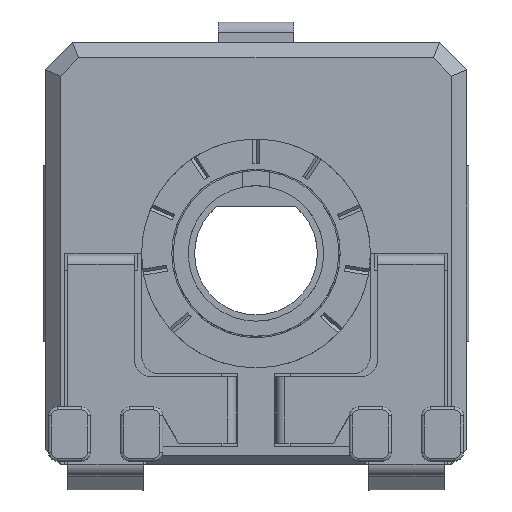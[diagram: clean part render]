
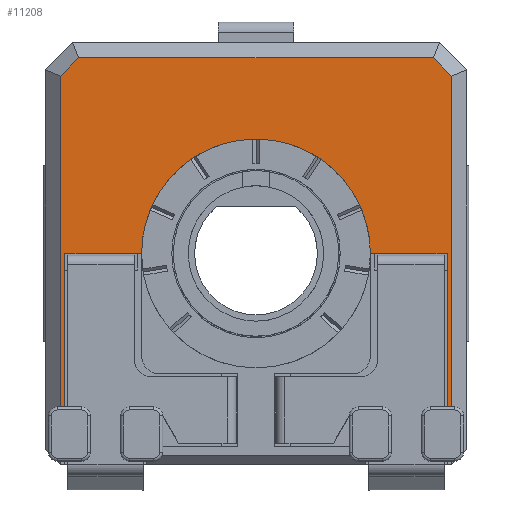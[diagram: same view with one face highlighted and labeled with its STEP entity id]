
A CAD part, top view. The second image highlights one B-rep face of the part: STEP entity #11208.
In plain terms, the highlighted planar face has unit normal (0, 0, 1).
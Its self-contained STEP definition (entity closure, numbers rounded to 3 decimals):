
#485=PLANE('',#12015);
#1024=FACE_OUTER_BOUND('',#1599,.T.);
#1599=EDGE_LOOP('',(#9771,#9772,#9773,#9774,#9775,#9776,#9777,#9778,#9779,
#9780,#9781,#9782));
#2040=LINE('',#16032,#3311);
#2108=LINE('',#16285,#3379);
#2348=LINE('',#17024,#3619);
#2351=LINE('',#17029,#3622);
#2576=LINE('',#17589,#3847);
#2609=LINE('',#17716,#3880);
#2832=LINE('',#18263,#4103);
#2833=LINE('',#18266,#4104);
#2834=LINE('',#18267,#4105);
#2835=LINE('',#18270,#4106);
#2836=LINE('',#18271,#4107);
#3311=VECTOR('',#12904,10.);
#3379=VECTOR('',#13186,10.);
#3619=VECTOR('',#13708,10.);
#3622=VECTOR('',#13713,10.);
#3847=VECTOR('',#14086,10.);
#3880=VECTOR('',#14161,10.);
#4103=VECTOR('',#14678,10.);
#4104=VECTOR('',#14681,10.);
#4105=VECTOR('',#14682,10.);
#4106=VECTOR('',#14685,10.);
#4107=VECTOR('',#14686,10.);
#4476=CIRCLE('',#12016,3.8);
#4777=VERTEX_POINT('',#15840);
#4832=VERTEX_POINT('',#16031);
#4909=VERTEX_POINT('',#16282);
#4910=VERTEX_POINT('',#16284);
#4957=VERTEX_POINT('',#16438);
#4958=VERTEX_POINT('',#16440);
#5111=VERTEX_POINT('',#17020);
#5112=VERTEX_POINT('',#17022);
#5277=VERTEX_POINT('',#17585);
#5303=VERTEX_POINT('',#17715);
#5434=VERTEX_POINT('',#18265);
#5435=VERTEX_POINT('',#18269);
#5968=EDGE_CURVE('',#4832,#4777,#2040,.T.);
#6094=EDGE_CURVE('',#4910,#4909,#2108,.T.);
#6398=EDGE_CURVE('',#5112,#5111,#2348,.T.);
#6401=EDGE_CURVE('',#5111,#4909,#2351,.T.);
#6647=EDGE_CURVE('',#4832,#5277,#2576,.T.);
#6692=EDGE_CURVE('',#5277,#5303,#2609,.T.);
#6942=EDGE_CURVE('',#5303,#5112,#2832,.T.);
#6943=EDGE_CURVE('',#4777,#5434,#2833,.T.);
#6944=EDGE_CURVE('',#5434,#4958,#2834,.T.);
#6945=EDGE_CURVE('',#4958,#4957,#4476,.T.);
#6946=EDGE_CURVE('',#4957,#5435,#2835,.T.);
#6947=EDGE_CURVE('',#5435,#4910,#2836,.T.);
#9771=ORIENTED_EDGE('',*,*,#5968,.T.);
#9772=ORIENTED_EDGE('',*,*,#6943,.T.);
#9773=ORIENTED_EDGE('',*,*,#6944,.T.);
#9774=ORIENTED_EDGE('',*,*,#6945,.T.);
#9775=ORIENTED_EDGE('',*,*,#6946,.T.);
#9776=ORIENTED_EDGE('',*,*,#6947,.T.);
#9777=ORIENTED_EDGE('',*,*,#6094,.T.);
#9778=ORIENTED_EDGE('',*,*,#6401,.F.);
#9779=ORIENTED_EDGE('',*,*,#6398,.F.);
#9780=ORIENTED_EDGE('',*,*,#6942,.F.);
#9781=ORIENTED_EDGE('',*,*,#6692,.F.);
#9782=ORIENTED_EDGE('',*,*,#6647,.F.);
#11208=ADVANCED_FACE('',(#1024),#485,.T.);
#12015=AXIS2_PLACEMENT_3D('',#18264,#14679,#14680);
#12016=AXIS2_PLACEMENT_3D('',#18268,#14683,#14684);
#12904=DIRECTION('',(1.,0.,0.));
#13186=DIRECTION('',(1.,0.,0.));
#13708=DIRECTION('',(0.707,-0.707,0.));
#13713=DIRECTION('',(0.,-1.,0.));
#14086=DIRECTION('',(0.,1.,0.));
#14161=DIRECTION('',(0.707,0.707,0.));
#14678=DIRECTION('',(1.,0.,0.));
#14679=DIRECTION('center_axis',(0.,0.,1.));
#14680=DIRECTION('ref_axis',(1.,0.,0.));
#14681=DIRECTION('',(0.,1.,0.));
#14682=DIRECTION('',(1.,0.,0.));
#14683=DIRECTION('center_axis',(0.,0.,-1.));
#14684=DIRECTION('ref_axis',(-1.,0.,0.));
#14685=DIRECTION('',(1.,0.,0.));
#14686=DIRECTION('',(0.,-1.,0.));
#15840=CARTESIAN_POINT('',(-13.817,-7.998,4.4));
#16031=CARTESIAN_POINT('',(-13.967,-7.998,4.4));
#16032=CARTESIAN_POINT('',(-10.217,-7.998,4.4));
#16282=CARTESIAN_POINT('',(-0.967,-7.998,4.4));
#16284=CARTESIAN_POINT('',(-1.117,-7.998,4.4));
#16285=CARTESIAN_POINT('',(-4.017,-7.998,4.4));
#16438=CARTESIAN_POINT('',(-3.667,-2.898,4.4));
#16440=CARTESIAN_POINT('',(-11.267,-2.898,4.4));
#17020=CARTESIAN_POINT('',(-0.967,2.994,4.4));
#17022=CARTESIAN_POINT('',(-1.574,3.602,4.4));
#17024=CARTESIAN_POINT('',(-1.271,3.298,4.4));
#17029=CARTESIAN_POINT('',(-0.967,0.602,4.4));
#17585=CARTESIAN_POINT('',(-13.967,2.994,4.4));
#17589=CARTESIAN_POINT('',(-13.967,-6.398,4.4));
#17715=CARTESIAN_POINT('',(-13.36,3.602,4.4));
#17716=CARTESIAN_POINT('',(-13.663,3.298,4.4));
#18263=CARTESIAN_POINT('',(-10.967,3.602,4.4));
#18264=CARTESIAN_POINT('Origin',(-7.467,-2.898,4.4));
#18265=CARTESIAN_POINT('',(-13.817,-2.898,4.4));
#18266=CARTESIAN_POINT('',(-13.817,-3.173,4.4));
#18267=CARTESIAN_POINT('',(-9.442,-2.898,4.4));
#18268=CARTESIAN_POINT('Origin',(-7.467,-2.898,4.4));
#18269=CARTESIAN_POINT('',(-1.117,-2.898,4.4));
#18270=CARTESIAN_POINT('',(-5.492,-2.898,4.4));
#18271=CARTESIAN_POINT('',(-1.117,-2.898,4.4));
